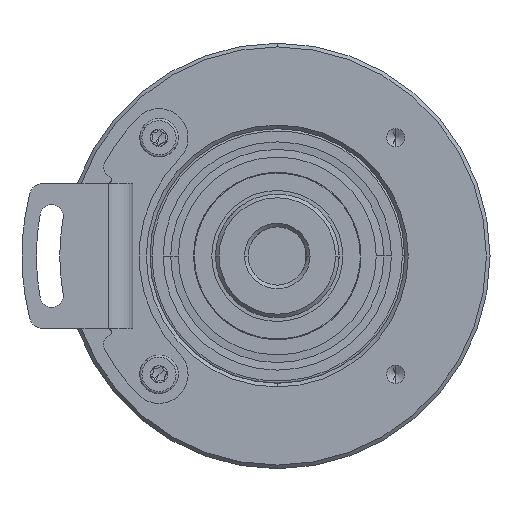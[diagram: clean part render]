
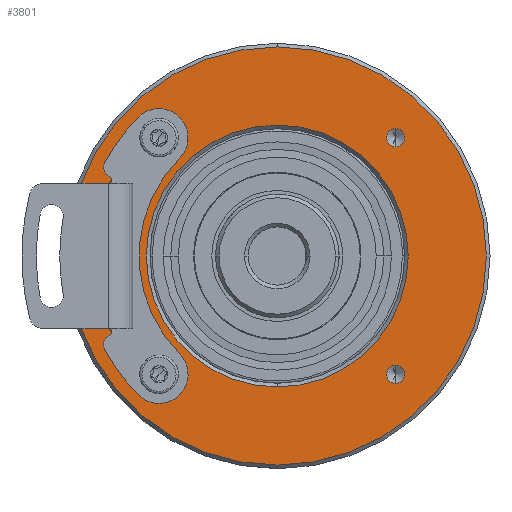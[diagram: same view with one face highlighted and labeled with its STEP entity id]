
A CAD part, front view. The second image highlights one B-rep face of the part: STEP entity #3801.
In plain terms, the highlighted planar face has unit normal (0, -1, 0).
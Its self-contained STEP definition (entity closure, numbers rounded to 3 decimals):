
#79 = VERTEX_POINT ( 'NONE', #1971 ) ;
#483 = CIRCLE ( 'NONE', #6383, 18. ) ;
#584 = AXIS2_PLACEMENT_3D ( 'NONE', #13238, #7332, #6275 ) ;
#969 = CIRCLE ( 'NONE', #584, 1.25 ) ;
#1155 = DIRECTION ( 'NONE',  ( 0., -1., 0. ) ) ;
#1264 = DIRECTION ( 'NONE',  ( 0., 0., -1. ) ) ;
#1409 = DIRECTION ( 'NONE',  ( 0., -1., 0. ) ) ;
#1459 = DIRECTION ( 'NONE',  ( 0., 0., -1. ) ) ;
#1536 = DIRECTION ( 'NONE',  ( 0., -1., 0. ) ) ;
#1668 = DIRECTION ( 'NONE',  ( 0., -1., 0. ) ) ;
#1971 = CARTESIAN_POINT ( 'NONE',  ( 0., 0., -28.75 ) ) ;
#2006 = AXIS2_PLACEMENT_3D ( 'NONE', #7400, #1668, #11914 ) ;
#2044 = VERTEX_POINT ( 'NONE', #3543 ) ;
#2064 = DIRECTION ( 'NONE',  ( 0., -1., 0. ) ) ;
#2159 = FACE_BOUND ( 'NONE', #9416, .T. ) ;
#2215 = AXIS2_PLACEMENT_3D ( 'NONE', #11469, #11097, #4999 ) ;
#2318 = DIRECTION ( 'NONE',  ( 0., 0., -1. ) ) ;
#2405 = AXIS2_PLACEMENT_3D ( 'NONE', #9318, #10323, #1264 ) ;
#2479 = VERTEX_POINT ( 'NONE', #6416 ) ;
#2658 = EDGE_LOOP ( 'NONE', ( #4927, #10482 ) ) ;
#2673 = DIRECTION ( 'NONE',  ( 0., -1., 0. ) ) ;
#2675 = ORIENTED_EDGE ( 'NONE', *, *, #7350, .F. ) ;
#2766 = EDGE_CURVE ( 'NONE', #12425, #12104, #969, .T. ) ;
#2864 = AXIS2_PLACEMENT_3D ( 'NONE', #12906, #3906, #6136 ) ;
#3179 = EDGE_CURVE ( 'NONE', #6665, #79, #14264, .T. ) ;
#3197 = CARTESIAN_POINT ( 'NONE',  ( 0., 0., -18. ) ) ;
#3386 = ORIENTED_EDGE ( 'NONE', *, *, #14387, .F. ) ;
#3429 = EDGE_LOOP ( 'NONE', ( #4615, #5705 ) ) ;
#3543 = CARTESIAN_POINT ( 'NONE',  ( -16.263, 0., -17.513 ) ) ;
#3575 = DIRECTION ( 'NONE',  ( 0., -1., 0. ) ) ;
#3637 = CARTESIAN_POINT ( 'NONE',  ( 16.263, 0., -15.013 ) ) ;
#3801 = ADVANCED_FACE ( 'NONE', ( #5197, #2159, #13906, #6992, #4850, #13557 ), #10331, .T. ) ;
#3867 = CIRCLE ( 'NONE', #9706, 1.25 ) ;
#3906 = DIRECTION ( 'NONE',  ( 0., -1., 0. ) ) ;
#3930 = CARTESIAN_POINT ( 'NONE',  ( 16.263, 0., -16.263 ) ) ;
#3986 = ORIENTED_EDGE ( 'NONE', *, *, #7246, .F. ) ;
#4069 = VERTEX_POINT ( 'NONE', #3197 ) ;
#4084 = AXIS2_PLACEMENT_3D ( 'NONE', #5891, #1409, #1459 ) ;
#4590 = DIRECTION ( 'NONE',  ( 0., 0., -1. ) ) ;
#4599 = CIRCLE ( 'NONE', #8186, 1.25 ) ;
#4615 = ORIENTED_EDGE ( 'NONE', *, *, #13529, .T. ) ;
#4723 = AXIS2_PLACEMENT_3D ( 'NONE', #7753, #5528, #9053 ) ;
#4790 = VERTEX_POINT ( 'NONE', #3637 ) ;
#4820 = ORIENTED_EDGE ( 'NONE', *, *, #8733, .F. ) ;
#4850 = FACE_BOUND ( 'NONE', #10480, .T. ) ;
#4859 = AXIS2_PLACEMENT_3D ( 'NONE', #11103, #2064, #11200 ) ;
#4927 = ORIENTED_EDGE ( 'NONE', *, *, #3179, .T. ) ;
#4999 = DIRECTION ( 'NONE',  ( 0., 0., -1. ) ) ;
#5039 = AXIS2_PLACEMENT_3D ( 'NONE', #9264, #3575, #2318 ) ;
#5133 = EDGE_CURVE ( 'NONE', #5166, #4069, #12897, .T. ) ;
#5166 = VERTEX_POINT ( 'NONE', #10045 ) ;
#5197 = FACE_BOUND ( 'NONE', #3429, .T. ) ;
#5528 = DIRECTION ( 'NONE',  ( 0., 1., 0. ) ) ;
#5705 = ORIENTED_EDGE ( 'NONE', *, *, #5133, .T. ) ;
#5891 = CARTESIAN_POINT ( 'NONE',  ( 16.263, 0., -16.263 ) ) ;
#5978 = EDGE_CURVE ( 'NONE', #79, #6665, #12074, .T. ) ;
#6136 = DIRECTION ( 'NONE',  ( 0., 0., -1. ) ) ;
#6231 = CARTESIAN_POINT ( 'NONE',  ( -16.263, 0., -15.013 ) ) ;
#6275 = DIRECTION ( 'NONE',  ( 0., 0., -1. ) ) ;
#6383 = AXIS2_PLACEMENT_3D ( 'NONE', #9310, #10409, #8201 ) ;
#6416 = CARTESIAN_POINT ( 'NONE',  ( 16.263, 0., 15.013 ) ) ;
#6614 = VERTEX_POINT ( 'NONE', #12482 ) ;
#6665 = VERTEX_POINT ( 'NONE', #10043 ) ;
#6756 = EDGE_LOOP ( 'NONE', ( #3386, #12140 ) ) ;
#6906 = CIRCLE ( 'NONE', #4084, 1.25 ) ;
#6992 = FACE_BOUND ( 'NONE', #12213, .T. ) ;
#7246 = EDGE_CURVE ( 'NONE', #4790, #9615, #6906, .T. ) ;
#7328 = EDGE_CURVE ( 'NONE', #12104, #12425, #4599, .T. ) ;
#7332 = DIRECTION ( 'NONE',  ( 0., -1., 0. ) ) ;
#7350 = EDGE_CURVE ( 'NONE', #9615, #4790, #3867, .T. ) ;
#7400 = CARTESIAN_POINT ( 'NONE',  ( 0., 0., 0. ) ) ;
#7694 = EDGE_CURVE ( 'NONE', #6614, #2479, #12572, .T. ) ;
#7753 = CARTESIAN_POINT ( 'NONE',  ( 0., 0., 0. ) ) ;
#7887 = VERTEX_POINT ( 'NONE', #6231 ) ;
#8186 = AXIS2_PLACEMENT_3D ( 'NONE', #11866, #2673, #10749 ) ;
#8201 = DIRECTION ( 'NONE',  ( 0., 0., -1. ) ) ;
#8237 = CARTESIAN_POINT ( 'NONE',  ( -16.263, 0., 15.013 ) ) ;
#8658 = CIRCLE ( 'NONE', #2864, 1.25 ) ;
#8733 = EDGE_CURVE ( 'NONE', #2044, #7887, #8658, .T. ) ;
#8826 = CIRCLE ( 'NONE', #4859, 1.25 ) ;
#9053 = DIRECTION ( 'NONE',  ( 0., 0., -1. ) ) ;
#9264 = CARTESIAN_POINT ( 'NONE',  ( 16.263, 0., 16.263 ) ) ;
#9310 = CARTESIAN_POINT ( 'NONE',  ( 0., 0., 0. ) ) ;
#9318 = CARTESIAN_POINT ( 'NONE',  ( 16.263, 0., 16.263 ) ) ;
#9416 = EDGE_LOOP ( 'NONE', ( #13041, #14376 ) ) ;
#9603 = AXIS2_PLACEMENT_3D ( 'NONE', #10222, #1155, #4590 ) ;
#9615 = VERTEX_POINT ( 'NONE', #9909 ) ;
#9706 = AXIS2_PLACEMENT_3D ( 'NONE', #3930, #1536, #12926 ) ;
#9909 = CARTESIAN_POINT ( 'NONE',  ( 16.263, 0., -17.513 ) ) ;
#10043 = CARTESIAN_POINT ( 'NONE',  ( 0., 0., 28.75 ) ) ;
#10045 = CARTESIAN_POINT ( 'NONE',  ( 0., 0., 18. ) ) ;
#10222 = CARTESIAN_POINT ( 'NONE',  ( 0., 0., 0. ) ) ;
#10323 = DIRECTION ( 'NONE',  ( 0., -1., 0. ) ) ;
#10331 = PLANE ( 'NONE',  #2215 ) ;
#10409 = DIRECTION ( 'NONE',  ( 0., 1., 0. ) ) ;
#10480 = EDGE_LOOP ( 'NONE', ( #2675, #3986 ) ) ;
#10482 = ORIENTED_EDGE ( 'NONE', *, *, #5978, .T. ) ;
#10749 = DIRECTION ( 'NONE',  ( 0., 0., -1. ) ) ;
#10792 = ORIENTED_EDGE ( 'NONE', *, *, #11891, .F. ) ;
#11097 = DIRECTION ( 'NONE',  ( 0., -1., 0. ) ) ;
#11103 = CARTESIAN_POINT ( 'NONE',  ( -16.263, 0., -16.263 ) ) ;
#11200 = DIRECTION ( 'NONE',  ( 0., 0., -1. ) ) ;
#11469 = CARTESIAN_POINT ( 'NONE',  ( 0., 0., 0. ) ) ;
#11866 = CARTESIAN_POINT ( 'NONE',  ( -16.263, 0., 16.263 ) ) ;
#11891 = EDGE_CURVE ( 'NONE', #7887, #2044, #8826, .T. ) ;
#11914 = DIRECTION ( 'NONE',  ( 0., 0., -1. ) ) ;
#12074 = CIRCLE ( 'NONE', #9603, 28.75 ) ;
#12104 = VERTEX_POINT ( 'NONE', #8237 ) ;
#12140 = ORIENTED_EDGE ( 'NONE', *, *, #7694, .F. ) ;
#12213 = EDGE_LOOP ( 'NONE', ( #4820, #10792 ) ) ;
#12425 = VERTEX_POINT ( 'NONE', #13233 ) ;
#12482 = CARTESIAN_POINT ( 'NONE',  ( 16.263, 0., 17.513 ) ) ;
#12572 = CIRCLE ( 'NONE', #5039, 1.25 ) ;
#12897 = CIRCLE ( 'NONE', #4723, 18. ) ;
#12906 = CARTESIAN_POINT ( 'NONE',  ( -16.263, 0., -16.263 ) ) ;
#12926 = DIRECTION ( 'NONE',  ( 0., 0., -1. ) ) ;
#13041 = ORIENTED_EDGE ( 'NONE', *, *, #7328, .F. ) ;
#13233 = CARTESIAN_POINT ( 'NONE',  ( -16.263, 0., 17.513 ) ) ;
#13238 = CARTESIAN_POINT ( 'NONE',  ( -16.263, 0., 16.263 ) ) ;
#13529 = EDGE_CURVE ( 'NONE', #4069, #5166, #483, .T. ) ;
#13557 = FACE_OUTER_BOUND ( 'NONE', #2658, .T. ) ;
#13906 = FACE_BOUND ( 'NONE', #6756, .T. ) ;
#14264 = CIRCLE ( 'NONE', #2006, 28.75 ) ;
#14376 = ORIENTED_EDGE ( 'NONE', *, *, #2766, .F. ) ;
#14387 = EDGE_CURVE ( 'NONE', #2479, #6614, #14676, .T. ) ;
#14676 = CIRCLE ( 'NONE', #2405, 1.25 ) ;
